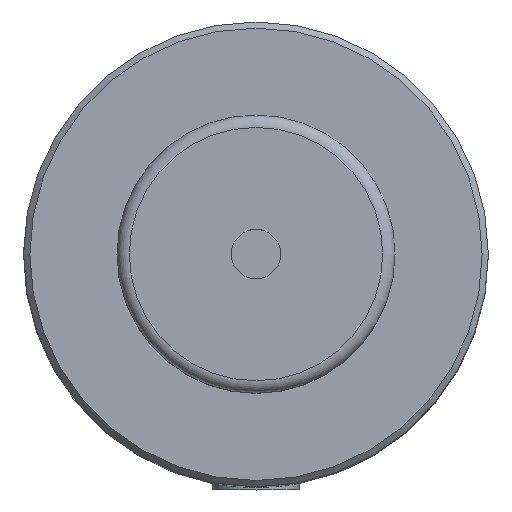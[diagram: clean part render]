
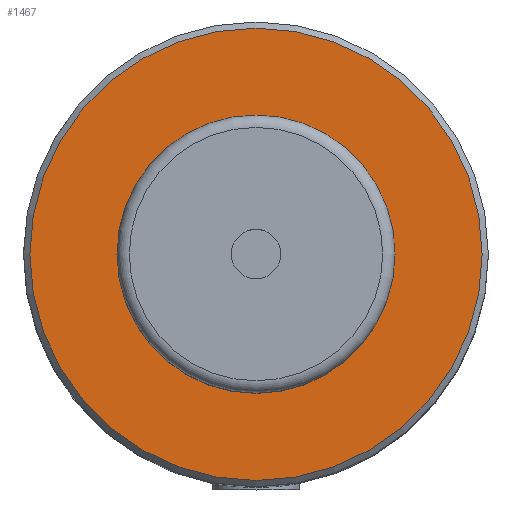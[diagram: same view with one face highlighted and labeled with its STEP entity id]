
A CAD part, top view. The second image highlights one B-rep face of the part: STEP entity #1467.
In plain terms, the highlighted planar face has unit normal (0, 0, 1).
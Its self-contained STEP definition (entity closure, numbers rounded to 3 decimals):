
#1447 = VERTEX_POINT('',#1448);
#1448 = CARTESIAN_POINT('',(36.6,0.,83.));
#1456 = EDGE_CURVE('',#1447,#1447,#1457,.T.);
#1457 = CIRCLE('',#1458,36.6);
#1458 = AXIS2_PLACEMENT_3D('',#1459,#1460,#1461);
#1459 = CARTESIAN_POINT('',(0.,0.,83.));
#1460 = DIRECTION('',(0.,0.,1.));
#1461 = DIRECTION('',(1.,0.,0.));
#1467 = ADVANCED_FACE('',(#1468),#1471,.T.);
#1468 = FACE_BOUND('',#1469,.T.);
#1469 = EDGE_LOOP('',(#1470));
#1470 = ORIENTED_EDGE('',*,*,#1456,.T.);
#1471 = PLANE('',#1472);
#1472 = AXIS2_PLACEMENT_3D('',#1473,#1474,#1475);
#1473 = CARTESIAN_POINT('',(0.,0.,83.));
#1474 = DIRECTION('',(0.,0.,1.));
#1475 = DIRECTION('',(1.,0.,0.));
